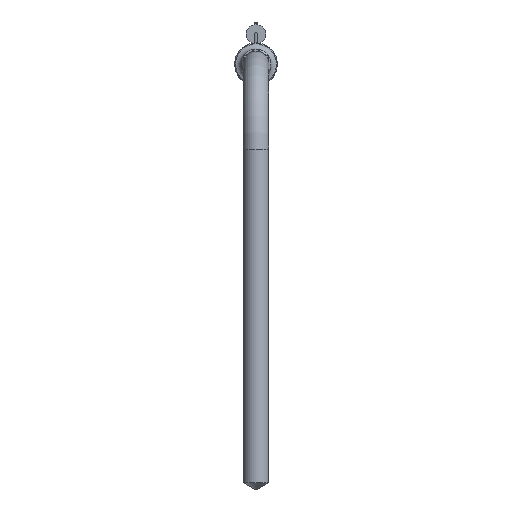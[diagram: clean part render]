
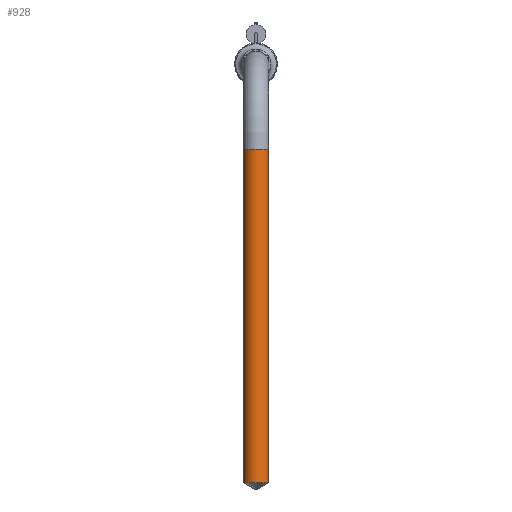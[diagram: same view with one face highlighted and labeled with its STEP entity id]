
A CAD part, top view. The second image highlights one B-rep face of the part: STEP entity #928.
In plain terms, the highlighted cylindrical face has radius 3 mm (diameter 6 mm), a full revolution.
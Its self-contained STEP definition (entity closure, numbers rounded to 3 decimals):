
#170 = CIRCLE ( 'NONE', #667, 3. ) ;
#187 = CYLINDRICAL_SURFACE ( 'NONE', #312, 3. ) ;
#293 = VERTEX_POINT ( 'NONE', #669 ) ;
#296 = ORIENTED_EDGE ( 'NONE', *, *, #364, .T. ) ;
#307 = CARTESIAN_POINT ( 'NONE',  ( 0., -20., 29. ) ) ;
#312 = AXIS2_PLACEMENT_3D ( 'NONE', #2166, #2038, #644 ) ;
#317 = DIRECTION ( 'NONE',  ( 0., 1., 0. ) ) ;
#364 = EDGE_CURVE ( 'NONE', #1633, #1633, #1294, .T. ) ;
#520 = EDGE_LOOP ( 'NONE', ( #296 ) ) ;
#644 = DIRECTION ( 'NONE',  ( 0., 0., 1. ) ) ;
#661 = AXIS2_PLACEMENT_3D ( 'NONE', #307, #1479, #2005 ) ;
#667 = AXIS2_PLACEMENT_3D ( 'NONE', #1149, #317, #985 ) ;
#669 = CARTESIAN_POINT ( 'NONE',  ( 0., -98.268, 32. ) ) ;
#713 = EDGE_LOOP ( 'NONE', ( #1722 ) ) ;
#926 = FACE_OUTER_BOUND ( 'NONE', #713, .T. ) ;
#928 = ADVANCED_FACE ( 'NONE', ( #926, #1604 ), #187, .T. ) ;
#985 = DIRECTION ( 'NONE',  ( 0., 0., 1. ) ) ;
#1149 = CARTESIAN_POINT ( 'NONE',  ( 0., -98.268, 29. ) ) ;
#1294 = CIRCLE ( 'NONE', #661, 3. ) ;
#1479 = DIRECTION ( 'NONE',  ( 0., -1., 0. ) ) ;
#1604 = FACE_OUTER_BOUND ( 'NONE', #520, .T. ) ;
#1633 = VERTEX_POINT ( 'NONE', #2149 ) ;
#1722 = ORIENTED_EDGE ( 'NONE', *, *, #1809, .T. ) ;
#1809 = EDGE_CURVE ( 'NONE', #293, #293, #170, .T. ) ;
#2005 = DIRECTION ( 'NONE',  ( -1., 0., 0. ) ) ;
#2038 = DIRECTION ( 'NONE',  ( 0., -1., 0. ) ) ;
#2149 = CARTESIAN_POINT ( 'NONE',  ( -3., -20., 29. ) ) ;
#2166 = CARTESIAN_POINT ( 'NONE',  ( 0., -20., 29. ) ) ;
